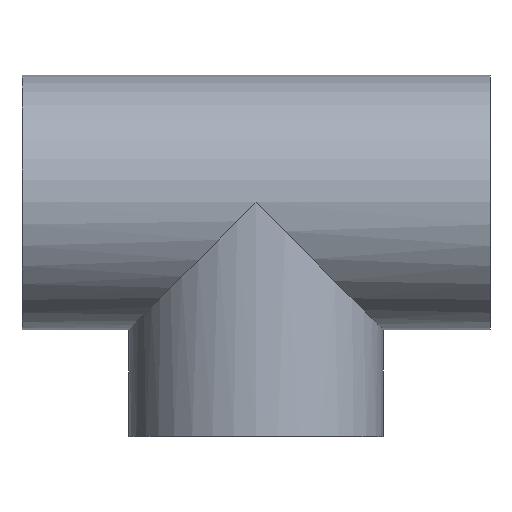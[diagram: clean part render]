
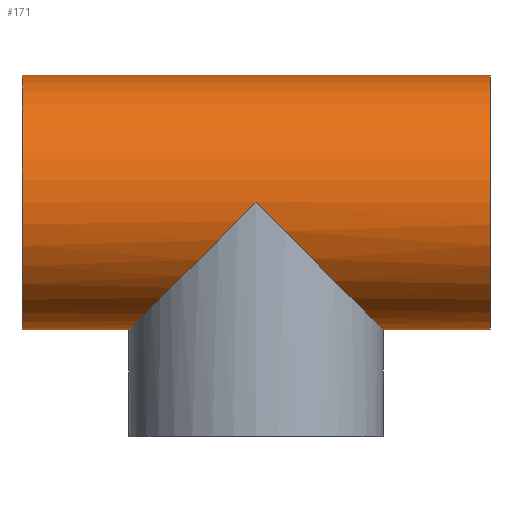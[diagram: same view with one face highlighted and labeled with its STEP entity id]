
A CAD part, top view. The second image highlights one B-rep face of the part: STEP entity #171.
In plain terms, the highlighted cylindrical face has radius 31 mm (diameter 62 mm), a full revolution.
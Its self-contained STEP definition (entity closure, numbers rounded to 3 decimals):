
#17=ELLIPSE('',#199,43.841,31.);
#18=ELLIPSE('',#200,43.841,31.);
#32=FACE_BOUND('',#68,.T.);
#33=FACE_BOUND('',#69,.T.);
#47=FACE_OUTER_BOUND('',#67,.T.);
#67=EDGE_LOOP('',(#140));
#68=EDGE_LOOP('',(#141,#142));
#69=EDGE_LOOP('',(#143));
#90=CIRCLE('',#198,31.);
#91=CIRCLE('',#201,31.);
#104=VERTEX_POINT('',#299);
#105=VERTEX_POINT('',#301);
#106=VERTEX_POINT('',#302);
#107=VERTEX_POINT('',#305);
#120=EDGE_CURVE('',#104,#104,#90,.T.);
#121=EDGE_CURVE('',#105,#106,#17,.T.);
#122=EDGE_CURVE('',#106,#105,#18,.T.);
#123=EDGE_CURVE('',#107,#107,#91,.T.);
#140=ORIENTED_EDGE('',*,*,#120,.F.);
#141=ORIENTED_EDGE('',*,*,#121,.T.);
#142=ORIENTED_EDGE('',*,*,#122,.T.);
#143=ORIENTED_EDGE('',*,*,#123,.F.);
#161=CYLINDRICAL_SURFACE('',#197,31.);
#171=ADVANCED_FACE('',(#47,#32,#33),#161,.T.);
#197=AXIS2_PLACEMENT_3D('',#298,#246,#247);
#198=AXIS2_PLACEMENT_3D('',#300,#248,#249);
#199=AXIS2_PLACEMENT_3D('',#303,#250,#251);
#200=AXIS2_PLACEMENT_3D('',#304,#252,#253);
#201=AXIS2_PLACEMENT_3D('',#306,#254,#255);
#246=DIRECTION('center_axis',(1.,0.,0.));
#247=DIRECTION('ref_axis',(0.,-1.,0.));
#248=DIRECTION('center_axis',(-1.,0.,0.));
#249=DIRECTION('ref_axis',(0.,-1.,0.));
#250=DIRECTION('center_axis',(-0.707,0.707,0.));
#251=DIRECTION('ref_axis',(-0.707,-0.707,0.));
#252=DIRECTION('center_axis',(0.707,0.707,0.));
#253=DIRECTION('ref_axis',(-0.707,0.707,0.));
#254=DIRECTION('center_axis',(1.,0.,0.));
#255=DIRECTION('ref_axis',(0.,-1.,0.));
#298=CARTESIAN_POINT('Origin',(0.,0.,0.));
#299=CARTESIAN_POINT('',(-57.,31.,0.));
#300=CARTESIAN_POINT('Origin',(-57.,0.,0.));
#301=CARTESIAN_POINT('',(0.,0.,-31.));
#302=CARTESIAN_POINT('',(0.,0.,31.));
#303=CARTESIAN_POINT('Origin',(0.,0.,0.));
#304=CARTESIAN_POINT('Origin',(0.,0.,0.));
#305=CARTESIAN_POINT('',(57.,31.,0.));
#306=CARTESIAN_POINT('Origin',(57.,0.,0.));
